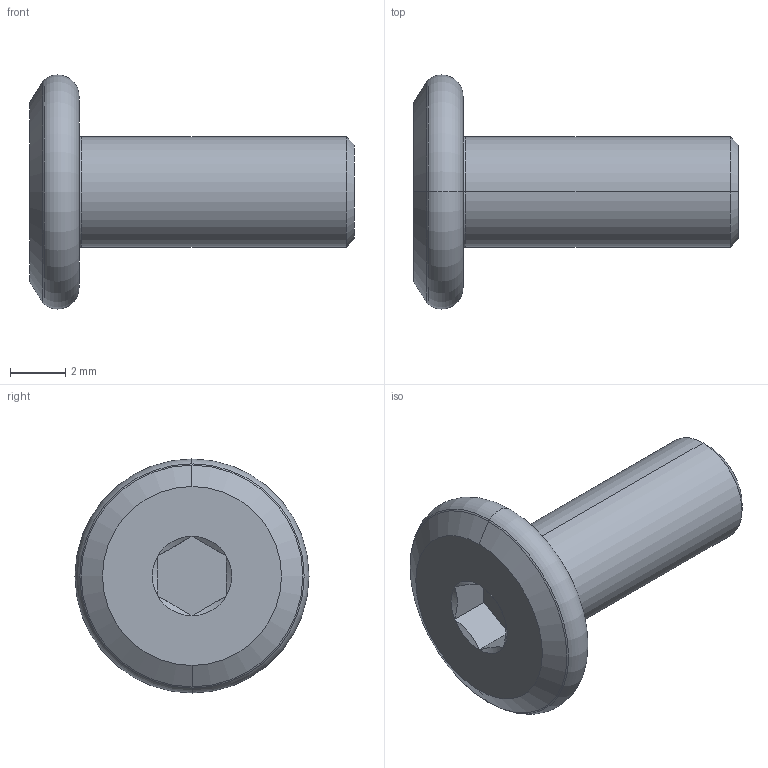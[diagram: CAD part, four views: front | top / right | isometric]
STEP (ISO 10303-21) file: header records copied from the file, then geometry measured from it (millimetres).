
FILE_DESCRIPTION (( 'STEP AP203' ), '1' );
FILE_NAME ('LGD-304D-M4x10.STEP', '2026-08-13T04:40:35', ( '' ), ( '' ), 'SwSTEP 2.0', 'SolidWorks 2020', '' );
FILE_SCHEMA (( 'CONFIG_CONTROL_DESIGN' ));
Length unit declared in the file: millimetre
Products named in the file (1): LGD-304D-M4x10
Bounding box: 11.8 x 8.5 x 8.5 mm (x, y, z)
Volume: 207.6 mm3; surface area: 273.4 mm2
Topology: 1 solids, 1 shells, 28 faces, 52 edges, 28 vertices
Faces by surface type: cone 10, plane 10, torus 6, cylinder 2
Entity records: 791 total; most frequent: CARTESIAN_POINT 151, DIRECTION 132, ORIENTED_EDGE 104, AXIS2_PLACEMENT_3D 57, EDGE_CURVE 52, EDGE_LOOP 30, FACE_OUTER_BOUND 28, CIRCLE 28
